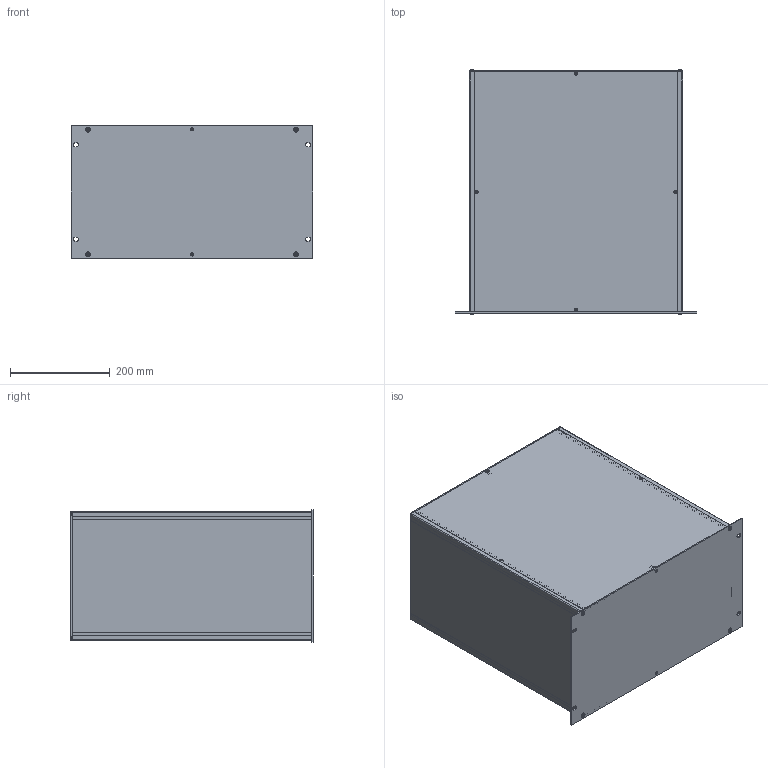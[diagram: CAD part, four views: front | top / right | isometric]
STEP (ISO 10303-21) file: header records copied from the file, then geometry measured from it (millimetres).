
FILE_DESCRIPTION(/* description */ (''),/* implementation_level */ '2;1');
FILE_NAME(/* name */ '//diskstation/Kunden/Gehäuse/Gehäuse/6HE/step/Zoll 6HE Rack Gehäuse Tiefe-480.step',/* time_stamp */ '2022-02-17T16:53:32+01:00',/* author */ (''),/* organization */ (''),/* preprocessor_version */ 'ST-DEVELOPER v18.1',/* originating_system */ 'Autodesk Translation Framework v10.10.0.1391',/* authorisation */ '');
FILE_SCHEMA (('AUTOMOTIVE_DESIGN { 1 0 10303 214 3 1 1 }'));
Length unit declared in the file: millimetre
Products named in the file (28): 6HE Gehäuse mit parametern; Gehäuse; Gehäuseprofil 1 unten links; Gehäuseprofil 2 oben rechts; Gehäuseprofil 1 unten rechts; Gehäuseprofil 2 oben links; Rückplatte; Deckel; Seitenteil links; Seitenteil rechts; Bodenplatte; Montageklotz Front/Deckel; Montageklotz Front/Boden; Montageklotz Rück/Deckel; Montageklotz Rück/Boden; Gewindestreifen; Frontplatte; Schrauben M5; Schraube Front; Schraube Front (1); Schraube Front (2); Schraube Front (3); Schraube Rück (1); Schraube Rück; Schraube Rück (2); Schraube Rück (3); Schrauben M3; HI_Senkschraube DIN 965 A v2 M3x5 24677.030.005(High)
Assembly tree (37 placements, depth 3):
  6HE Gehäuse mit parametern
    Gehäuse
      Gehäuseprofil 1 unten links
      Gehäuseprofil 2 oben rechts
      Gehäuseprofil 1 unten rechts
      Gehäuseprofil 2 oben links
      Rückplatte
      Deckel
      Seitenteil links
      Seitenteil rechts
      Bodenplatte
      Montageklotz Front/Deckel
      Montageklotz Front/Boden
      Montageklotz Rück/Deckel
      Montageklotz Rück/Boden
      Gewindestreifen  x2
    Frontplatte
    Schrauben M5
      Schraube Front
      Schraube Front (1)
      Schraube Front (2)
      Schraube Front (3)
      Schraube Rück (1)
      Schraube Rück
      Schraube Rück (2)
      Schraube Rück (3)
    Schrauben M3
      HI_Senkschraube DIN 965 A v2 M3x5 24677.030.005(High)  x10
Bounding box: 483 x 488.2 x 265 mm (x, y, z)
Volume: 2243324.4 mm3; surface area: 1936727 mm2
Topology: 34 solids, 34 shells, 944 faces, 2346 edges, 1470 vertices
Faces by surface type: cylinder 422, plane 342, cone 164, torus 8, bspline 8
Full cylindrical faces by diameter (mm): 2.529 x180, 3 x10, 3.2 x10, 4.234 x40, 5 x8, 5.2 x4, 5.3 x8, 5.6 x10, 9.5 x8
Entity records: 18600 total; most frequent: CARTESIAN_POINT 3348, DIRECTION 3135, ORIENTED_EDGE 2760, EDGE_CURVE 1380, AXIS2_PLACEMENT_3D 1195, VERTEX_POINT 868, EDGE_LOOP 866, LINE 745
